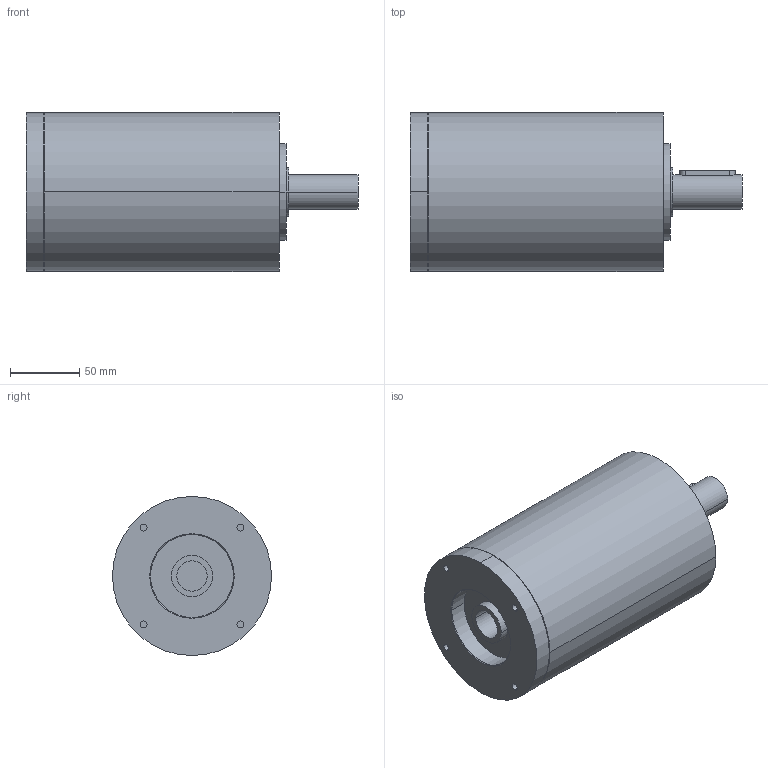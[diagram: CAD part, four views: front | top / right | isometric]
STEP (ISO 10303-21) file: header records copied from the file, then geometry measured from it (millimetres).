
FILE_DESCRIPTION(('CoCreate Modeling STEP Export'),'2;1');
FILE_NAME('GPR125_ig-9-12-16-20-28-35_25_B14_22_P20.stp','2014-08-26T14:11:07',(''),(''),'CoCreate Modeling STEP processor for AP214 (Solid Model)','CoCreate Modeling 16.00C 25-Feb-2009 (C) Parametric Technology GmbH','');
FILE_SCHEMA(('AUTOMOTIVE_DESIGN { 1 0 10303 214 1 1 1 1 }'));
Length unit declared in the file: millimetre
Products named in the file (2): GPR125_ig-9-12-16-20-28-35_25_B14_22_P20
Assembly tree (1 placements, depth 2):
  GPR125_ig-9-12-16-20-28-35_25_B14_22_P20
    GPR125_ig-9-12-16-20-28-35_25_B14_22_P20
Bounding box: 240 x 115 x 115 mm (x, y, z)
Volume: 1888162.2 mm3; surface area: 102987.6 mm2
Topology: 1 solids, 1 shells, 62 faces, 157 edges, 111 vertices
Faces by surface type: cylinder 36, plane 20, cone 6
Entity records: 1605 total; most frequent: ORIENTED_EDGE 310, CARTESIAN_POINT 306, DIRECTION 206, EDGE_CURVE 155, VERTEX_POINT 111, AXIS2_PLACEMENT_3D 79, EDGE_LOOP 78, FACE_OUTER_BOUND 62
